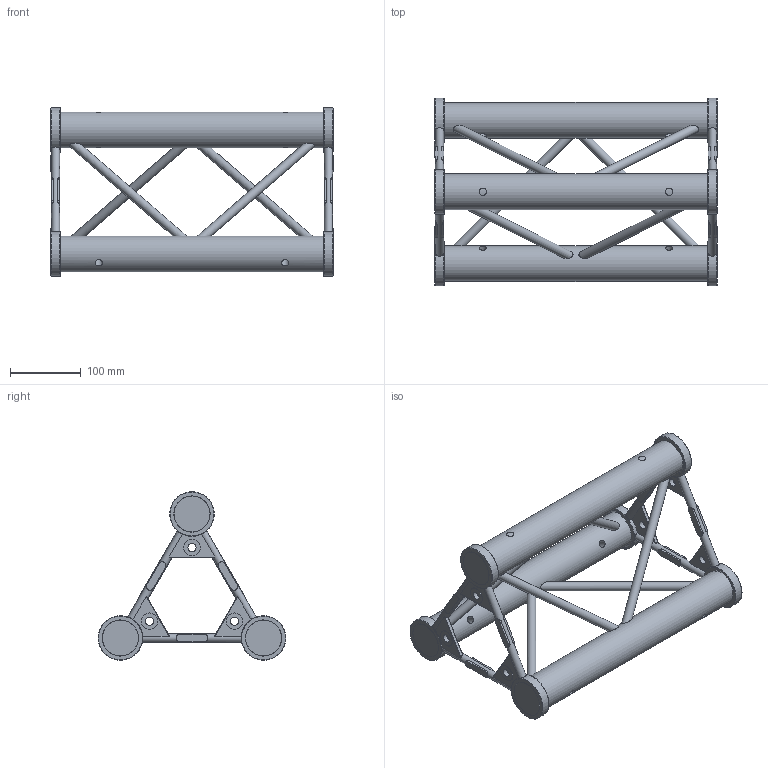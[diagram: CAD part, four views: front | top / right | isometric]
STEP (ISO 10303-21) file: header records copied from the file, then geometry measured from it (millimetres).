
FILE_DESCRIPTION(/* description */ (''),/* implementation_level */ '2;1');
FILE_NAME(/* name */ 'C:\Users\stephan\Desktop\A03\112040011.stp',/* time_stamp */ '2016-01-20T13:42:00+01:00',/* author */ ('Stephan'),/* organization */ (''),/* preprocessor_version */ 'ST-DEVELOPER v15.6',/* originating_system */ 'Autodesk Inventor 2015',/* authorisation */ '');
FILE_SCHEMA (('AUTOMOTIVE_DESIGN { 1 0 10303 214 3 1 1 }'));
Length unit declared in the file: millimetre
Products named in the file (1): 160025485
Bounding box: 400 x 266.3 x 239.1 mm (x, y, z)
Volume: 2802810.4 mm3; surface area: 352975.4 mm2
Topology: 13 solids, 13 shells, 259 faces, 627 edges, 408 vertices
Faces by surface type: plane 126, cylinder 109, cone 12, torus 12
Full cylindrical faces by diameter (mm): 10.5 x6, 11.5 x12, 12.7 x6, 23.5 x6, 50.8 x3, 51.3 x6, 63.3 x6
Entity records: 8809 total; most frequent: CARTESIAN_POINT 2816, DIRECTION 1116, ORIENTED_EDGE 1104, EDGE_CURVE 540, AXIS2_PLACEMENT_3D 444, EDGE_LOOP 384, VERTEX_POINT 384, STYLED_ITEM 258
